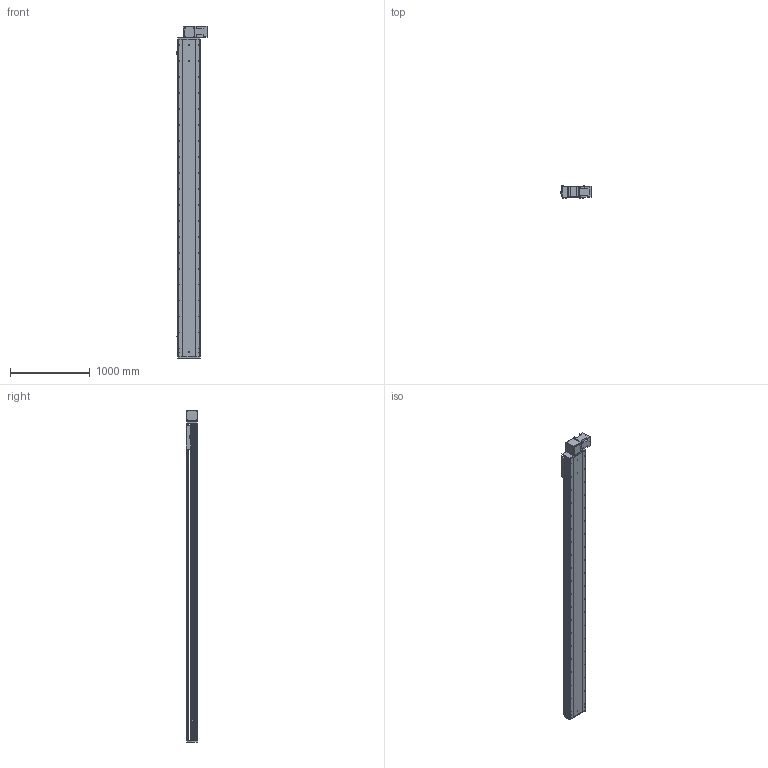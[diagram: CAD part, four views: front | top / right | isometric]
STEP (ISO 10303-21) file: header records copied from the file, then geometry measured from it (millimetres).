
FILE_DESCRIPTION (( 'STEP AP214' ), '1' );
FILE_NAME ('RTB28S-XX-3550-BL-M100-XX-C4.STEP', '2025-12-22T02:39:47', ( '' ), ( '' ), 'SwSTEP 2.0', 'SolidWorks 2018', '' );
FILE_SCHEMA (( 'AUTOMOTIVE_DESIGN' ));
Length unit declared in the file: millimetre
Products named in the file (4): RTB28S-XX-3550-BL-M100-XX-C4; RTB28S-GY-008^RTB28S-XX-XX-BL-M100-XX-C4; RTB28S-GY-011^RTB28S-XX-XX-BL-M100-XX-C4; RTB28S-GY-004^RTB28S-XX-XX-BL-M100-XX-C4
Assembly tree (3 placements, depth 2):
  RTB28S-XX-3550-BL-M100-XX-C4
    RTB28S-GY-011^RTB28S-XX-XX-BL-M100-XX-C4
    RTB28S-GY-004^RTB28S-XX-XX-BL-M100-XX-C4
    RTB28S-GY-008^RTB28S-XX-XX-BL-M100-XX-C4
Bounding box: 380.7 x 145 x 4157 mm (x, y, z)
Volume: 69765402.8 mm3; surface area: 6486670.6 mm2
Topology: 3 solids, 4 shells, 918 faces, 2478 edges, 1588 vertices
Faces by surface type: cylinder 463, plane 371, cone 80, torus 4
Entity records: 35831 total; most frequent: CARTESIAN_POINT 6952, DIRECTION 5280, ORIENTED_EDGE 4892, EDGE_CURVE 2446, AXIS2_PLACEMENT_3D 1960, VERTEX_POINT 1588, LINE 1360, VECTOR 1360
